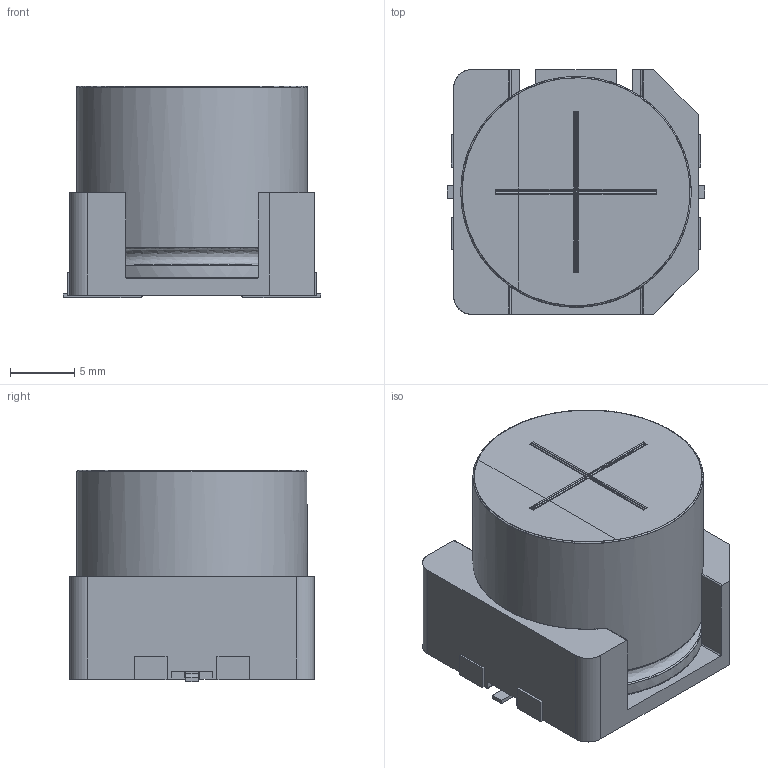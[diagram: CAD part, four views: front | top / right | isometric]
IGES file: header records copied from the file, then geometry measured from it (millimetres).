
Start section: JAMA-IS VERSION  1.0
Bounding box: 20.1 x 19.1 x 16.5 mm (x, y, z)
Surface area: 3092.1 mm2 (no closed solid volume)
Topology: 0 solids, 0 shells, 186 faces, 1585 edges, 1562 vertices
Faces by surface type: bspline 186
